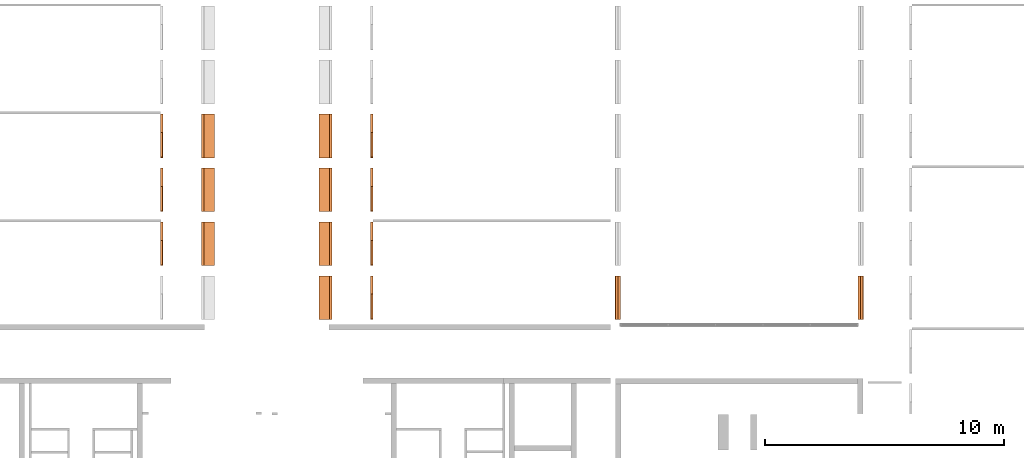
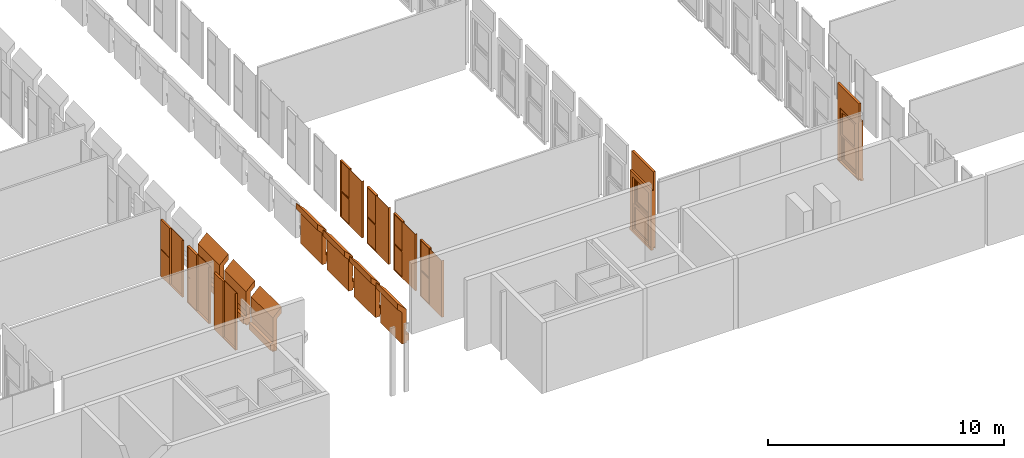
# One storey, part 8 of 13: 16 proxies.
"""IFC2X3 building model written with IfcOpenShell, lengths in millimetres."""

from ifc_helpers import new_model, entity, si_unit, converted_unit, derived_unit, direction, frame, frame_2d, origin, origin_2d_with_axis, place, context, subcontext, project, spatial, polyline, rectangle, outline, extrude, source, transform, mapped, material, material_list, type_object, type_shapes, element, save


model = new_model("IFC2X3")

# Units and contexts
model_context = context("Model", 3, precision=0.01, world=origin(), true_north=direction((6.12303176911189e-17, 1.0)))
body_context = subcontext(model_context, "Body", "Model", "MODEL_VIEW")
ifc_project = project(units=[si_unit("LENGTHUNIT", "METRE", prefix="MILLI"), si_unit("AREAUNIT", "SQUARE_METRE"), si_unit("VOLUMEUNIT", "CUBIC_METRE"), converted_unit("PLANEANGLEUNIT", "DEGREE", entity("IfcRatioMeasure", 0.0174532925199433), si_unit("PLANEANGLEUNIT", "RADIAN"), dimensions=[0, 0, 0, 0, 0, 0, 0]), si_unit("MASSUNIT", "GRAM", prefix="KILO"), derived_unit("MASSDENSITYUNIT", [(si_unit("MASSUNIT", "GRAM", prefix="KILO"), 1), (si_unit("LENGTHUNIT", "METRE"), -3)]), derived_unit("MOMENTOFINERTIAUNIT", [(si_unit("LENGTHUNIT", "METRE"), 4)]), si_unit("TIMEUNIT", "SECOND"), si_unit("FREQUENCYUNIT", "HERTZ"), si_unit("THERMODYNAMICTEMPERATUREUNIT", "DEGREE_CELSIUS"), derived_unit("THERMALTRANSMITTANCEUNIT", [(si_unit("MASSUNIT", "GRAM", prefix="KILO"), 1), (si_unit("THERMODYNAMICTEMPERATUREUNIT", "KELVIN"), -1), (si_unit("TIMEUNIT", "SECOND"), -3)]), derived_unit("VOLUMETRICFLOWRATEUNIT", [(si_unit("LENGTHUNIT", "METRE"), 3), (si_unit("TIMEUNIT", "SECOND"), -1)]), si_unit("ELECTRICCURRENTUNIT", "AMPERE"), si_unit("ELECTRICVOLTAGEUNIT", "VOLT"), si_unit("POWERUNIT", "WATT"), si_unit("FORCEUNIT", "NEWTON", prefix="KILO"), si_unit("ILLUMINANCEUNIT", "LUX"), si_unit("LUMINOUSFLUXUNIT", "LUMEN"), si_unit("LUMINOUSINTENSITYUNIT", "CANDELA"), derived_unit("USERDEFINED", [(si_unit("MASSUNIT", "GRAM", prefix="KILO"), -1), (si_unit("LENGTHUNIT", "METRE"), -2), (si_unit("TIMEUNIT", "SECOND"), 3), (si_unit("LUMINOUSFLUXUNIT", "LUMEN"), 1)]), derived_unit("LINEARVELOCITYUNIT", [(si_unit("LENGTHUNIT", "METRE"), 1), (si_unit("TIMEUNIT", "SECOND"), -1)]), si_unit("PRESSUREUNIT", "PASCAL"), derived_unit("USERDEFINED", [(si_unit("LENGTHUNIT", "METRE"), -2), (si_unit("MASSUNIT", "GRAM", prefix="KILO"), 1), (si_unit("TIMEUNIT", "SECOND"), -2)]), derived_unit("LINEARFORCEUNIT", [(si_unit("MASSUNIT", "GRAM", prefix="KILO"), 1), (si_unit("LENGTHUNIT", "METRE"), 1), (si_unit("TIMEUNIT", "SECOND"), -2), (si_unit("LENGTHUNIT", "METRE"), -1)]), derived_unit("PLANARFORCEUNIT", [(si_unit("MASSUNIT", "GRAM", prefix="KILO"), 1), (si_unit("LENGTHUNIT", "METRE"), 1), (si_unit("TIMEUNIT", "SECOND"), -2), (si_unit("LENGTHUNIT", "METRE"), -2)])], contexts=[model_context])

# Site, building, storey
site_placement = place(None, frame((10627.5135316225, 21939.0796949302, 0.0)))
site = spatial("IfcSite", under=ifc_project, at=site_placement, Name="Default", CompositionType="ELEMENT")
building_placement = place(site_placement, origin())
building = spatial("IfcBuilding", under=site, at=building_placement, CompositionType="ELEMENT")
storey_placement = place(building_placement, frame((0.0, 0.0, 7320.0)))
storey = spatial("IfcBuildingStorey", under=building, at=storey_placement, Name="R+2", CompositionType="ELEMENT", Elevation=7320.0)

# Proxies
ifc_material_1 = material(Name="PVC, Flexible")
ifc_material_2 = material(Name="Glass")
ifc_material_list_1 = material_list([ifc_material_1, ifc_material_2])
building_element_proxy_type_1 = type_object("IfcBuildingElementProxyType", Name="FENETRE.dwg:Fenetre ext 296+95", PredefinedType="NOTDEFINED", material=ifc_material_1)
shared_shape_1 = source(origin(), body_context, "Body", "SweptSolid", [
    extrude(rectangle(XDim=1829.99999999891, YDim=112.500043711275, at=origin_2d_with_axis()), frame((-10.4189092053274, 56.2500218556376, 2960.0), z_axis=(0.0, 0.0, 1.0), x_axis=(-1.0, 0.0, 0.0)), (0.0, 0.0, 1.0), 949.999999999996),
    extrude(outline(polyline([(-68.5678005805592, -14.3879872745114), (-72.4883397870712, -33.9999574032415), (-67.5853472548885, -34.9800922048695), (-63.9024543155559, -16.5569155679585), (44.3087537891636, -16.5569155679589), (54.1101018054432, 32.4730097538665), (40.6268723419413, 35.1683804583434), (40.1368049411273, 32.7168841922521), (51.168538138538, 30.5115808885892), (42.1928709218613, -14.3879872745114), (-68.5678005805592, -14.3879872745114)])), frame((-925.418909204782, 66.917049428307, -47.5499763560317), z_axis=(-1.0, 0.0, 0.0), x_axis=(0.0, 0.980598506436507, -0.196026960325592)), (0.0, 0.0, -1.0), 1829.99999999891),
    extrude(outline(polyline([(-64.667066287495, -56.2500218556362), (66.1666874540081, -56.2500218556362), (66.1666874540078, 56.2500218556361), (-67.6663086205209, 56.2500218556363), (-64.667066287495, -56.2500218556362)])), frame((-925.418909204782, -56.2500218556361, -63.833312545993), z_axis=(1.0, 0.0, 0.0), x_axis=(0.0, 0.0, -1.0)), (0.0, 0.0, 1.0), 1829.99999999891),
    extrude(outline(polyline([(-55.5555555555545, 97.0007159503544), (-55.5555555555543, -5.85738417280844), (-55.5555555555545, -95.357341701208), (-45.5555555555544, -95.3573417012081), (-45.5555555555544, -105.357341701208), (174.444444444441, -105.357341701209), (174.444444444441, 106.642659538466), (-45.5555555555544, 106.642659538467), (-45.5555555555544, 97.0007159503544), (-55.5555555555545, 97.0007159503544)])), frame((849.025535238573, 5.85738417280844, 0.0), z_axis=(0.0, 0.0, -1.0), x_axis=(-1.0, 0.0, 0.0)), (0.0, 0.0, -1.0), 2960.0),
    extrude(rectangle(XDim=199.499957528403, YDim=1369.99999999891, at=origin_2d_with_axis()), frame((-10.4189092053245, 0.250021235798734, 2730.0), z_axis=(0.0, 0.0, 1.0), x_axis=(0.0, 1.0, 0.0)), (0.0, 0.0, 1.0), 230.000000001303),
    extrude(outline(polyline([(-97.0007159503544, -55.5555555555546), (5.85738417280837, -55.5555555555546), (95.357341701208, -55.5555555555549), (95.357341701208, -45.5555555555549), (105.357341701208, -45.5555555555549), (105.357341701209, 174.44444444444), (-106.642659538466, 174.444444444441), (-106.642659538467, -45.5555555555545), (-97.0007159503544, -45.5555555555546), (-97.0007159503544, -55.5555555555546)])), frame((-869.863353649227, 5.85738417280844, 0.0), z_axis=(0.0, 0.0, 1.0), x_axis=(0.0, -1.0, 0.0)), (0.0, 0.0, 1.0), 2960.0),
    extrude(rectangle(XDim=1.0, YDim=1079.99999999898, at=origin_2d_with_axis()), frame((-10.4189092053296, -19.5, 130.0), z_axis=(0.0, 0.0, 1.0), x_axis=(0.0, 1.0, 0.0)), (0.0, 0.0, 1.0), 1120.00000000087),
    extrude(rectangle(XDim=1.0, YDim=1079.99999999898, at=frame_2d((-4.21884749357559e-15, 0.0), x_axis=(1.0, 0.0))), frame((-10.4189092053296, -30.5, 130.0), z_axis=(0.0, 0.0, 1.0), x_axis=(0.0, 1.0, 0.0)), (0.0, 0.0, 1.0), 1120.00000000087),
    extrude(rectangle(XDim=1.0, YDim=1079.99999999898, at=frame_2d((-4.21884749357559e-15, 0.0), x_axis=(1.0, 0.0))), frame((-10.4189092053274, 69.5, 1465.0), z_axis=(0.0, 0.0, 1.0), x_axis=(0.0, 1.0, 0.0)), (0.0, 0.0, 1.0), 1120.0),
    extrude(rectangle(XDim=0.999999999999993, YDim=1079.99999999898, at=frame_2d((-8.46545056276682e-15, 0.0), x_axis=(1.0, 0.0))), frame((-10.4189092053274, 80.5, 1465.0), z_axis=(0.0, 0.0, 1.0), x_axis=(0.0, 1.0, 0.0)), (0.0, 0.0, 1.0), 1120.00000000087),
    extrude(outline(polyline([(-685.0, -1365.0), (0.0, -1365.0), (685.0, -1365.0), (685.0, 1365.0), (0.0, 1365.0), (-685.0, 1365.0), (-685.0, -1365.0)]), holes=[polyline([(-640.0, -1320.0), (-640.0, -45.0), (0.0, -45.0), (640.0, -45.0), (640.0, -1320.0), (0.0, -1320.0), (-640.0, -1320.0)]), polyline([(-640.0, 40.0), (-640.0, 1315.0), (0.0, 1315.0), (640.0, 1315.0), (640.0, 40.0), (0.0, 40.0), (-640.0, 40.0)])]), frame((-10.4189092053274, 0.0, 1365.0), z_axis=(0.0, 1.0, 0.0), x_axis=(1.0, 0.0, 0.0)), (0.0, 0.0, 1.0), 50.0),
    extrude(outline(polyline([(-655.0, -667.500000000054), (655.0, -667.500000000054), (655.0, 667.500000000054), (-655.0, 667.500000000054), (-655.0, -667.500000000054)]), holes=[polyline([(-540.0, 552.500000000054), (540.0, 552.500000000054), (540.0, -567.500000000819), (-540.0, -567.500000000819), (-540.0, 552.500000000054)])]), frame((-10.4189092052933, -50.0, 697.500000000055), z_axis=(0.0, 1.0, 0.0), x_axis=(-1.0, 0.0, 0.0)), (0.0, 0.0, 1.0), 50.0),
    extrude(outline(polyline([(-655.0, -667.500000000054), (655.0, -667.500000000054), (655.0, 667.500000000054), (-655.0, 667.500000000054), (-655.0, -667.500000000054)]), holes=[polyline([(-540.0, 552.500000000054), (540.0, 552.500000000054), (540.0, -567.500000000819), (-540.0, -567.500000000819), (-540.0, 552.500000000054)])]), frame((-10.4189092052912, 50.0, 2032.50000000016), z_axis=(0.0, 1.0, 0.0), x_axis=(-1.0, 0.0, 0.0)), (0.0, 0.0, 1.0), 50.0),
])
type_shapes(building_element_proxy_type_1, [shared_shape_1])
proxy_1_placement = place(storey_placement, frame((51473.0982174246, -14018.6607857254, 0.0), z_axis=(0.0, 0.0, 1.0), x_axis=(0.0, 1.0, 0.0)))
element("IfcBuildingElementProxy", 1, at=proxy_1_placement, inside=storey, type_object=building_element_proxy_type_1, material=ifc_material_list_1, Name="FENETRE.dwg:Fenetre ext 296+95", ObjectType="FENETRE.dwg:Fenetre ext 296+95", context=body_context, shape_type="MappedRepresentation", body=[
    mapped(shared_shape_1, transform((0.0, 0.0, 0.0), scale=1.0)),
])
ifc_material_list_2 = material_list([ifc_material_1, ifc_material_2])
building_element_proxy_type_2 = type_object("IfcBuildingElementProxyType", Name="FENETRE.dwg:Fenetre ext 296+95", PredefinedType="NOTDEFINED", material=ifc_material_1)
shared_shape_2 = source(origin(), body_context, "Body", "SweptSolid", [
    extrude(rectangle(XDim=112.500043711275, YDim=1829.99999999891, at=origin_2d_with_axis()), frame((-10.4189092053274, -56.2500218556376, 2960.0), z_axis=(0.0, 0.0, 1.0), x_axis=(0.0, 1.0, 0.0)), (0.0, 0.0, 1.0), 949.999999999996),
    extrude(outline(polyline([(27.5499763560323, -64.4170494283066), (47.5499763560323, -64.4170494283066), (47.5499763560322, -59.4170494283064), (28.7622905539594, -59.4170494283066), (7.54997635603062, 46.6946996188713), (-42.4500236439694, 46.6946996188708), (-42.4500236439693, 32.9446996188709), (-39.9500236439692, 32.9446996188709), (-39.9500236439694, 44.1946996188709), (5.83789859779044, 44.1946996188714), (27.5499763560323, -64.4170494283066)])), frame((-925.418909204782, -66.917049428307, -47.5499763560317), z_axis=(1.0, 0.0, 0.0), x_axis=(0.0, 0.0, 1.0)), (0.0, 0.0, 1.0), 1829.99999999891),
    extrude(outline(polyline([(-54.506636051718, -66.1431859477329), (58.0333803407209, -66.1431859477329), (54.4666704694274, 67.6422744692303), (-57.9934147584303, 64.6440974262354), (-54.506636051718, -66.1431859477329)])), frame((-925.418909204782, 56.2500218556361, -63.833312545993), z_axis=(1.0, 0.0, 0.0), x_axis=(0.0, -0.999644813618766, 0.0266504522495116)), (0.0, 0.0, 1.0), 1829.99999999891),
    extrude(outline(polyline([(-97.0007159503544, -55.5555555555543), (5.85738417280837, -55.5555555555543), (95.357341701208, -55.5555555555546), (95.357341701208, -45.5555555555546), (105.357341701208, -45.5555555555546), (105.357341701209, 174.444444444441), (-106.642659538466, 174.444444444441), (-106.642659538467, -45.5555555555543), (-97.0007159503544, -45.5555555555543), (-97.0007159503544, -55.5555555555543)])), frame((849.025535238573, -5.85738417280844, 0.0), z_axis=(0.0, 0.0, 1.0), x_axis=(0.0, 1.0, 0.0)), (0.0, 0.0, 1.0), 2960.0),
    extrude(rectangle(XDim=1369.99999999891, YDim=199.499957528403, at=origin_2d_with_axis()), frame((-10.4189092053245, -0.250021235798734, 2730.0), z_axis=(0.0, 0.0, 1.0), x_axis=(-1.0, 0.0, 0.0)), (0.0, 0.0, 1.0), 230.000000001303),
    extrude(outline(polyline([(-55.5555555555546, 97.0007159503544), (-55.5555555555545, -5.85738417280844), (-55.5555555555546, -95.357341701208), (-45.5555555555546, -95.3573417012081), (-45.5555555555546, -105.357341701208), (174.444444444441, -105.357341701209), (174.444444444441, 106.642659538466), (-45.5555555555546, 106.642659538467), (-45.5555555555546, 97.0007159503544), (-55.5555555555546, 97.0007159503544)])), frame((-869.863353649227, -5.85738417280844, 0.0), z_axis=(0.0, 0.0, -1.0), x_axis=(1.0, 0.0, 0.0)), (0.0, 0.0, -1.0), 2960.0),
    extrude(rectangle(XDim=1079.99999999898, YDim=1.0, at=origin_2d_with_axis()), frame((-10.4189092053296, 19.5, 130.0), z_axis=(0.0, 0.0, 1.0), x_axis=(-1.0, 0.0, 0.0)), (0.0, 0.0, 1.0), 1120.00000000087),
    extrude(rectangle(XDim=1079.99999999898, YDim=1.0, at=origin_2d_with_axis()), frame((-10.4189092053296, 30.5, 130.0), z_axis=(0.0, 0.0, 1.0), x_axis=(-1.0, 0.0, 0.0)), (0.0, 0.0, 1.0), 1120.00000000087),
    extrude(rectangle(XDim=1079.99999999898, YDim=1.0, at=frame_2d((0.0, 4.21884749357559e-15), x_axis=(1.0, 0.0))), frame((-10.4189092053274, -69.5, 1465.0), z_axis=(0.0, 0.0, 1.0), x_axis=(-1.0, 0.0, 0.0)), (0.0, 0.0, 1.0), 1120.0),
    extrude(rectangle(XDim=1079.99999999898, YDim=0.999999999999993, at=frame_2d((0.0, -8.46545056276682e-15), x_axis=(1.0, 0.0))), frame((-10.4189092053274, -80.5, 1465.0), z_axis=(0.0, 0.0, 1.0), x_axis=(-1.0, 0.0, 0.0)), (0.0, 0.0, 1.0), 1120.00000000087),
    extrude(outline(polyline([(-685.0, -1365.0), (0.0, -1365.0), (685.0, -1365.0), (685.0, 1365.0), (0.0, 1365.0), (-685.0, 1365.0), (-685.0, -1365.0)]), holes=[polyline([(-640.0, -1320.0), (-640.0, -45.0), (0.0, -45.0), (640.0, -45.0), (640.0, -1320.0), (0.0, -1320.0), (-640.0, -1320.0)]), polyline([(-640.0, 40.0), (-640.0, 1315.0), (0.0, 1315.0), (640.0, 1315.0), (640.0, 40.0), (0.0, 40.0), (-640.0, 40.0)])]), frame((-10.4189092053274, -50.0, 1365.0), z_axis=(0.0, 1.0, 0.0), x_axis=(1.0, 0.0, 0.0)), (0.0, 0.0, 1.0), 50.0),
    extrude(outline(polyline([(-655.0, -667.500000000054), (655.0, -667.500000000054), (655.0, 667.500000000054), (-655.0, 667.500000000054), (-655.0, -667.500000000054)]), holes=[polyline([(-540.0, 552.500000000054), (540.0, 552.500000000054), (540.0, -567.500000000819), (-540.0, -567.500000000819), (-540.0, 552.500000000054)])]), frame((-10.4189092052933, 0.0, 697.500000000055), z_axis=(0.0, 1.0, 0.0), x_axis=(-1.0, 0.0, 0.0)), (0.0, 0.0, 1.0), 50.0),
    extrude(outline(polyline([(-655.0, -667.500000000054), (655.0, -667.500000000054), (655.0, 667.500000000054), (-655.0, 667.500000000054), (-655.0, -667.500000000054)]), holes=[polyline([(-540.0, 552.500000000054), (540.0, 552.500000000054), (540.0, -567.500000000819), (-540.0, -567.500000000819), (-540.0, 552.500000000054)])]), frame((-10.4189092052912, -100.0, 2032.50000000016), z_axis=(0.0, 1.0, 0.0), x_axis=(-1.0, 0.0, 0.0)), (0.0, 0.0, 1.0), 50.0),
])
type_shapes(building_element_proxy_type_2, [shared_shape_2])
proxy_2_placement = place(storey_placement, frame((41291.8747193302, -14018.6607857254, 0.0), z_axis=(0.0, 0.0, 1.0), x_axis=(0.0, 1.0, 0.0)))
element("IfcBuildingElementProxy", 2, at=proxy_2_placement, inside=storey, type_object=building_element_proxy_type_2, material=ifc_material_list_2, Name="FENETRE.dwg:Fenetre ext 296+95", ObjectType="FENETRE.dwg:Fenetre ext 296+95", context=body_context, shape_type="MappedRepresentation", body=[
    mapped(shared_shape_2, transform((0.0, 0.0, 0.0), scale=1.0)),
])
ifc_material_3 = material(Name="Plywood, Sheathing")
ifc_material_list_3 = material_list([ifc_material_3, ifc_material_2])
building_element_proxy_type_3 = type_object("IfcBuildingElementProxyType", Name="Porte noire:Porte noire", PredefinedType="NOTDEFINED", material=ifc_material_3)
shared_shape_3 = source(origin(), body_context, "Body", "SweptSolid", [
    extrude(rectangle(XDim=100.0, YDim=23.0000000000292, at=origin_2d_with_axis()), frame((-950.918997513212, -50.0, 8.73189890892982), z_axis=(0.0, 0.0, 1.0), x_axis=(0.0, 1.0, 0.0)), (0.0, 0.0, 1.0), 2933.34951039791),
    extrude(rectangle(XDim=19.0, YDim=1038.0, at=frame_2d((7.99360577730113e-15, 0.0), x_axis=(1.0, 0.0))), frame((-420.418997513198, -87.5, 43.7318989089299), z_axis=(0.0, 0.0, 1.0), x_axis=(0.0, 1.0, 0.0)), (0.0, 0.0, 1.0), 2898.5),
    extrude(rectangle(XDim=100.0, YDim=1775.0, at=origin_2d_with_axis()), frame((-51.9189975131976, -50.0, 8.73189890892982), z_axis=(0.0, 0.0, 1.0), x_axis=(0.0, 1.0, 0.0)), (0.0, 0.0, 1.0), 35.0000000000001),
    extrude(rectangle(XDim=100.0, YDim=35.0000000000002, at=origin_2d_with_axis()), frame((853.081002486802, -50.0, 8.73189890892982), z_axis=(0.0, 0.0, 1.0), x_axis=(0.0, 1.0, 0.0)), (0.0, 0.0, 1.0), 2898.5),
    extrude(rectangle(XDim=100.0, YDim=740.0, at=origin_2d_with_axis()), frame((500.581002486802, -50.0, 2907.23189890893), z_axis=(0.0, 0.0, 1.0), x_axis=(0.0, 1.0, 0.0)), (0.0, 0.0, 1.0), 35.0000000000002),
    extrude(rectangle(XDim=100.0, YDim=31.9999999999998, at=origin_2d_with_axis()), frame((114.581002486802, -50.0, 43.7318989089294), z_axis=(0.0, 0.0, 1.0), x_axis=(0.0, 1.0, 0.0)), (0.0, 0.0, 1.0), 2898.5),
    extrude(rectangle(XDim=100.0, YDim=705.0, at=origin_2d_with_axis()), frame((483.081002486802, -50.0, 1343.73189890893), z_axis=(0.0, 0.0, 1.0), x_axis=(0.0, 1.0, 0.0)), (0.0, 0.0, 1.0), 55.0),
    extrude(outline(polyline([(-352.5, -650.0), (352.5, -650.0), (352.5, 650.0), (-352.5, 650.0), (-352.5, -650.0)]), holes=[polyline([(342.5, 640.0), (342.5, -640.0), (-342.5, -640.0), (-342.5, 640.0), (342.5, 640.0)])]), frame((483.081002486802, -80.0, 693.73189890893), z_axis=(0.0, 1.0, 0.0), x_axis=(1.0, 0.0, 0.0)), (0.0, 0.0, 1.0), 70.0),
    extrude(outline(polyline([(-754.25, -352.5), (754.25, -352.5), (754.25, 352.5), (-754.25, 352.5), (-754.25, -352.5)]), holes=[polyline([(744.25, 342.5), (744.25, -342.5), (-744.25, -342.5), (-744.25, 342.5), (744.25, 342.5)])]), frame((483.081002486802, -80.0, 2152.98189890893), z_axis=(0.0, 1.0, 0.0), x_axis=(0.0, 0.0, 1.0)), (0.0, 0.0, 1.0), 70.0),
    extrude(outline(polyline([(-640.0, -342.5), (640.0, -342.5), (640.0, 342.5), (-640.0, 342.5), (-640.0, -342.5)]), holes=[polyline([(630.0, 332.5), (630.0, -332.5), (-630.0, -332.5), (-630.0, 332.5), (630.0, 332.5)])]), frame((483.081002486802, -81.0, 693.731898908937), z_axis=(0.0, 1.0, 0.0), x_axis=(0.0, 0.0, 1.0)), (0.0, 0.0, 1.0), 3.99999999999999),
    extrude(outline(polyline([(-744.25, -342.5), (744.25, -342.5), (744.25, 342.5), (-744.25, 342.5), (-744.25, -342.5)]), holes=[polyline([(734.25, 332.5), (734.25, -332.5), (-734.25, -332.5), (-734.25, 332.5), (734.25, 332.5)])]), frame((483.081002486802, -81.0, 2152.98189890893), z_axis=(0.0, 1.0, 0.0), x_axis=(0.0, 0.0, 1.0)), (0.0, 0.0, 1.0), 3.99999999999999),
    extrude(outline(polyline([(-640.0, -342.5), (640.0, -342.5), (640.0, 342.5), (-640.0, 342.5), (-640.0, -342.5)]), holes=[polyline([(630.0, 332.5), (630.0, -332.5), (-630.0, -332.5), (-630.0, 332.5), (630.0, 332.5)])]), frame((483.081002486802, -15.0, 693.782575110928), z_axis=(0.0, 1.0, 0.0), x_axis=(0.0, 0.0, 1.0)), (0.0, 0.0, 1.0), 5.0),
    extrude(outline(polyline([(-744.25, -342.5), (744.25, -342.5), (744.25, 342.5), (-744.25, 342.5), (-744.25, -342.5)]), holes=[polyline([(734.25, 332.5), (734.25, -332.5), (-734.25, -332.5), (-734.25, 332.5), (734.25, 332.5)])]), frame((483.081002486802, -15.0, 2153.03257511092), z_axis=(0.0, 1.0, 0.0), x_axis=(0.0, 0.0, 1.0)), (0.0, 0.0, 1.0), 5.0),
    extrude(rectangle(XDim=2.0, YDim=665.0, at=frame_2d((8.43769498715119e-15, 0.0), x_axis=(1.0, 0.0))), frame((483.081002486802, -79.0, 1418.73189890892), z_axis=(0.0, 0.0, 1.0), x_axis=(0.0, 1.0, 0.0)), (0.0, 0.0, 1.0), 1468.50000000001),
    extrude(rectangle(XDim=2.0, YDim=665.0, at=frame_2d((8.43769498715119e-15, 0.0), x_axis=(1.0, 0.0))), frame((483.081002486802, -79.0, 63.7318989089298), z_axis=(0.0, 0.0, 1.0), x_axis=(0.0, 1.0, 0.0)), (0.0, 0.0, 1.0), 1260.0),
    extrude(rectangle(XDim=2.0, YDim=665.0, at=frame_2d((1.0547118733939e-15, 0.0), x_axis=(1.0, 0.0))), frame((483.081002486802, -13.0, 1418.78257511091), z_axis=(0.0, 0.0, 1.0), x_axis=(0.0, 1.0, 0.0)), (0.0, 0.0, 1.0), 1468.50000000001),
    extrude(rectangle(XDim=2.0, YDim=665.0, at=frame_2d((1.0547118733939e-15, 0.0), x_axis=(1.0, 0.0))), frame((483.081002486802, -13.0, 63.7825751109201), z_axis=(0.0, 0.0, 1.0), x_axis=(0.0, 1.0, 0.0)), (0.0, 0.0, 1.0), 1260.0),
])
type_shapes(building_element_proxy_type_3, [shared_shape_3])
proxy_3_placement = place(storey_placement, frame((22127.8464640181, -11722.6606974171, 0.0), z_axis=(0.0, 0.0, 1.0), x_axis=(0.0, 1.0, 0.0)))
element("IfcBuildingElementProxy", 3, at=proxy_3_placement, inside=storey, type_object=building_element_proxy_type_3, material=ifc_material_list_3, Name="Porte noire:Porte noire", ObjectType="Porte noire:Porte noire", context=body_context, shape_type="MappedRepresentation", body=[
    mapped(shared_shape_3, transform((0.0, 0.0, 0.0), scale=1.0)),
])
ifc_material_list_4 = material_list([ifc_material_3, ifc_material_2])
proxy_4_placement = place(storey_placement, frame((22127.8464640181, -9462.66069741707, 0.0), z_axis=(0.0, 0.0, 1.0), x_axis=(0.0, 1.0, 0.0)))
element("IfcBuildingElementProxy", 4, at=proxy_4_placement, inside=storey, type_object=building_element_proxy_type_3, material=ifc_material_list_4, Name="Porte noire:Porte noire", ObjectType="Porte noire:Porte noire", context=body_context, shape_type="MappedRepresentation", body=[
    mapped(shared_shape_3, transform((0.0, 0.0, 0.0), scale=1.0)),
])
ifc_material_list_5 = material_list([ifc_material_3, ifc_material_2])
proxy_5_placement = place(storey_placement, frame((22127.8464640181, -7202.66069741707, 0.0), z_axis=(0.0, 0.0, 1.0), x_axis=(0.0, 1.0, 0.0)))
element("IfcBuildingElementProxy", 5, at=proxy_5_placement, inside=storey, type_object=building_element_proxy_type_3, material=ifc_material_list_5, Name="Porte noire:Porte noire", ObjectType="Porte noire:Porte noire", context=body_context, shape_type="MappedRepresentation", body=[
    mapped(shared_shape_3, transform((0.0, 0.0, 0.0), scale=1.0)),
])
ifc_material_list_6 = material_list([ifc_material_3, ifc_material_2])
building_element_proxy_type_4 = type_object("IfcBuildingElementProxyType", Name="Porte noire:Porte noire", PredefinedType="NOTDEFINED", material=ifc_material_3)
shared_shape_4 = source(origin(), body_context, "Body", "SweptSolid", [
    extrude(rectangle(XDim=23.0000000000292, YDim=100.0, at=frame_2d((-1.35891298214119e-13, 0.0), x_axis=(1.0, 0.0))), frame((-950.918997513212, 50.0, 8.73189890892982), z_axis=(0.0, 0.0, 1.0), x_axis=(-1.0, 0.0, 0.0)), (0.0, 0.0, 1.0), 2933.34951039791),
    extrude(rectangle(XDim=1038.0, YDim=19.0, at=frame_2d((0.0, 7.99360577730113e-15), x_axis=(1.0, 0.0))), frame((-420.418997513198, 87.5, 43.7318989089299), z_axis=(0.0, 0.0, 1.0), x_axis=(-1.0, 0.0, 0.0)), (0.0, 0.0, 1.0), 2898.5),
    extrude(rectangle(XDim=1775.0, YDim=100.0, at=origin_2d_with_axis()), frame((-51.9189975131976, 50.0, 8.73189890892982), z_axis=(0.0, 0.0, 1.0), x_axis=(-1.0, 0.0, 0.0)), (0.0, 0.0, 1.0), 35.0000000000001),
    extrude(rectangle(XDim=35.0000000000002, YDim=100.0, at=origin_2d_with_axis()), frame((853.081002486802, 50.0, 8.73189890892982), z_axis=(0.0, 0.0, 1.0), x_axis=(-1.0, 0.0, 0.0)), (0.0, 0.0, 1.0), 2898.5),
    extrude(rectangle(XDim=740.0, YDim=100.0, at=origin_2d_with_axis()), frame((500.581002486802, 50.0, 2907.23189890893), z_axis=(0.0, 0.0, 1.0), x_axis=(-1.0, 0.0, 0.0)), (0.0, 0.0, 1.0), 35.0000000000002),
    extrude(rectangle(XDim=31.9999999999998, YDim=100.0, at=origin_2d_with_axis()), frame((114.581002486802, 50.0, 43.7318989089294), z_axis=(0.0, 0.0, 1.0), x_axis=(-1.0, 0.0, 0.0)), (0.0, 0.0, 1.0), 2898.5),
    extrude(rectangle(XDim=705.0, YDim=100.0, at=origin_2d_with_axis()), frame((483.081002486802, 50.0, 1343.73189890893), z_axis=(0.0, 0.0, 1.0), x_axis=(-1.0, 0.0, 0.0)), (0.0, 0.0, 1.0), 55.0),
    extrude(outline(polyline([(-352.5, -650.0), (352.5, -650.0), (352.5, 650.0), (-352.5, 650.0), (-352.5, -650.0)]), holes=[polyline([(342.5, 640.0), (342.5, -640.0), (-342.5, -640.0), (-342.5, 640.0), (342.5, 640.0)])]), frame((483.081002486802, 10.0, 693.73189890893), z_axis=(0.0, 1.0, 0.0), x_axis=(1.0, 0.0, 0.0)), (0.0, 0.0, 1.0), 70.0),
    extrude(outline(polyline([(-754.25, -352.5), (754.25, -352.5), (754.25, 352.5), (-754.25, 352.5), (-754.25, -352.5)]), holes=[polyline([(744.25, 342.5), (744.25, -342.5), (-744.25, -342.5), (-744.25, 342.5), (744.25, 342.5)])]), frame((483.081002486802, 10.0, 2152.98189890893), z_axis=(0.0, 1.0, 0.0), x_axis=(0.0, 0.0, 1.0)), (0.0, 0.0, 1.0), 70.0),
    extrude(outline(polyline([(-640.0, -342.5), (640.0, -342.5), (640.0, 342.5), (-640.0, 342.5), (-640.0, -342.5)]), holes=[polyline([(630.0, 332.5), (630.0, -332.5), (-630.0, -332.5), (-630.0, 332.5), (630.0, 332.5)])]), frame((483.081002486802, 77.0, 693.731898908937), z_axis=(0.0, 1.0, 0.0), x_axis=(0.0, 0.0, 1.0)), (0.0, 0.0, 1.0), 3.99999999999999),
    extrude(outline(polyline([(-744.25, -342.5), (744.25, -342.5), (744.25, 342.5), (-744.25, 342.5), (-744.25, -342.5)]), holes=[polyline([(734.25, 332.5), (734.25, -332.5), (-734.25, -332.5), (-734.25, 332.5), (734.25, 332.5)])]), frame((483.081002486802, 77.0, 2152.98189890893), z_axis=(0.0, 1.0, 0.0), x_axis=(0.0, 0.0, 1.0)), (0.0, 0.0, 1.0), 3.99999999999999),
    extrude(outline(polyline([(-640.0, -342.5), (640.0, -342.5), (640.0, 342.5), (-640.0, 342.5), (-640.0, -342.5)]), holes=[polyline([(630.0, 332.5), (630.0, -332.5), (-630.0, -332.5), (-630.0, 332.5), (630.0, 332.5)])]), frame((483.081002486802, 10.0, 693.782575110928), z_axis=(0.0, 1.0, 0.0), x_axis=(0.0, 0.0, 1.0)), (0.0, 0.0, 1.0), 5.0),
    extrude(outline(polyline([(-744.25, -342.5), (744.25, -342.5), (744.25, 342.5), (-744.25, 342.5), (-744.25, -342.5)]), holes=[polyline([(734.25, 332.5), (734.25, -332.5), (-734.25, -332.5), (-734.25, 332.5), (734.25, 332.5)])]), frame((483.081002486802, 10.0, 2153.03257511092), z_axis=(0.0, 1.0, 0.0), x_axis=(0.0, 0.0, 1.0)), (0.0, 0.0, 1.0), 5.0),
    extrude(rectangle(XDim=665.0, YDim=2.0, at=frame_2d((0.0, 8.43769498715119e-15), x_axis=(1.0, 0.0))), frame((483.081002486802, 79.0, 1418.73189890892), z_axis=(0.0, 0.0, 1.0), x_axis=(-1.0, 0.0, 0.0)), (0.0, 0.0, 1.0), 1468.50000000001),
    extrude(rectangle(XDim=665.0, YDim=2.0, at=frame_2d((0.0, 8.43769498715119e-15), x_axis=(1.0, 0.0))), frame((483.081002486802, 79.0, 63.7318989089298), z_axis=(0.0, 0.0, 1.0), x_axis=(-1.0, 0.0, 0.0)), (0.0, 0.0, 1.0), 1260.0),
    extrude(rectangle(XDim=665.0, YDim=2.0, at=frame_2d((0.0, 1.0547118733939e-15), x_axis=(1.0, 0.0))), frame((483.081002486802, 13.0, 1418.78257511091), z_axis=(0.0, 0.0, 1.0), x_axis=(-1.0, 0.0, 0.0)), (0.0, 0.0, 1.0), 1468.50000000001),
    extrude(rectangle(XDim=665.0, YDim=2.0, at=frame_2d((0.0, 1.0547118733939e-15), x_axis=(1.0, 0.0))), frame((483.081002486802, 13.0, 63.7825751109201), z_axis=(0.0, 0.0, 1.0), x_axis=(-1.0, 0.0, 0.0)), (0.0, 0.0, 1.0), 1260.0),
])
type_shapes(building_element_proxy_type_4, [shared_shape_4])
proxy_6_placement = place(storey_placement, frame((31027.1264727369, -13982.6606974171, 0.0), z_axis=(0.0, 0.0, 1.0), x_axis=(0.0, 1.0, 0.0)))
element("IfcBuildingElementProxy", 6, at=proxy_6_placement, inside=storey, type_object=building_element_proxy_type_4, material=ifc_material_list_6, Name="Porte noire:Porte noire", ObjectType="Porte noire:Porte noire", context=body_context, shape_type="MappedRepresentation", body=[
    mapped(shared_shape_4, transform((0.0, 0.0, 0.0), scale=1.0)),
])
ifc_material_list_7 = material_list([ifc_material_3, ifc_material_2])
proxy_7_placement = place(storey_placement, frame((31027.1264727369, -11722.6606974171, 0.0), z_axis=(0.0, 0.0, 1.0), x_axis=(0.0, 1.0, 0.0)))
element("IfcBuildingElementProxy", 7, at=proxy_7_placement, inside=storey, type_object=building_element_proxy_type_4, material=ifc_material_list_7, Name="Porte noire:Porte noire", ObjectType="Porte noire:Porte noire", context=body_context, shape_type="MappedRepresentation", body=[
    mapped(shared_shape_4, transform((0.0, 0.0, 0.0), scale=1.0)),
])
ifc_material_list_8 = material_list([ifc_material_3, ifc_material_2])
proxy_8_placement = place(storey_placement, frame((31027.1264727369, -9462.66069741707, 0.0), z_axis=(0.0, 0.0, 1.0), x_axis=(0.0, 1.0, 0.0)))
element("IfcBuildingElementProxy", 8, at=proxy_8_placement, inside=storey, type_object=building_element_proxy_type_4, material=ifc_material_list_8, Name="Porte noire:Porte noire", ObjectType="Porte noire:Porte noire", context=body_context, shape_type="MappedRepresentation", body=[
    mapped(shared_shape_4, transform((0.0, 0.0, 0.0), scale=1.0)),
])
ifc_material_list_9 = material_list([ifc_material_3, ifc_material_2])
proxy_9_placement = place(storey_placement, frame((31027.1264727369, -7202.66069741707, 0.0), z_axis=(0.0, 0.0, 1.0), x_axis=(0.0, 1.0, 0.0)))
element("IfcBuildingElementProxy", 9, at=proxy_9_placement, inside=storey, type_object=building_element_proxy_type_4, material=ifc_material_list_9, Name="Porte noire:Porte noire", ObjectType="Porte noire:Porte noire", context=body_context, shape_type="MappedRepresentation", body=[
    mapped(shared_shape_4, transform((0.0, 0.0, 0.0), scale=1.0)),
])
ifc_material_4 = material(Name="Concrete, Precast Smooth, Light Grey")
building_element_proxy_type_5 = type_object("IfcBuildingElementProxyType", Name="Panneaux mediateque:Panneaux mediateque", PredefinedType="NOTDEFINED", material=ifc_material_4)
shared_shape_5 = source(origin(), body_context, "Body", "SweptSolid", [
    extrude(outline(polyline([(-998.434688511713, -508.899393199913), (-1213.39514999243, -723.859854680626), (-605.283318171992, -723.859854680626), (115.965598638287, -2.61093787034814), (101.823463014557, 11.5311977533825), (296.277827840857, 205.985562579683), (310.419963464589, 191.843426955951), (395.272229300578, 106.991161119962), (639.224068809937, 350.943000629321), (554.371802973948, 435.79526646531), (625.082466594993, 506.505930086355), (473.054508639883, 658.533888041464), (-694.378772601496, -508.899393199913), (-998.434688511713, -508.899393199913)])), frame((0.0, -203.845498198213, 800.153828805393), z_axis=(-1.0, 0.0, 0.0), x_axis=(0.0, 0.707106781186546, -0.707106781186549)), (0.0, 0.0, -1.0), 1830.0),
])
type_shapes(building_element_proxy_type_5, [shared_shape_5])
for number, where, z_axis, x_axis, name in (
    (10, (23837.4872432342, -8164.07969493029, -700.0), (0.0, 0.0, 1.0), (0.0, 1.0, 0.0), "Panneaux mediateque:Panneaux mediateque"),
    (11, (23837.4872432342, -10424.0796949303, -700.0), (0.0, 0.0, 1.0), (0.0, 1.0, 0.0), "Panneaux mediateque:Panneaux mediateque"),
    (12, (23837.4872432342, -12684.0796949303, -700.0), (0.0, 0.0, 1.0), (0.0, 1.0, 0.0), "Panneaux mediateque:Panneaux mediateque"),
):
    element("IfcBuildingElementProxy", number, at=place(storey_placement, frame(where, z_axis=z_axis, x_axis=x_axis)), inside=storey, type_object=building_element_proxy_type_5, material=ifc_material_4, Name=name, ObjectType="Panneaux mediateque:Panneaux mediateque", context=body_context, shape_type="MappedRepresentation", body=[
        mapped(shared_shape_5, transform((0.0, 0.0, 0.0), scale=1.0)),
    ])
building_element_proxy_type_6 = type_object("IfcBuildingElementProxyType", Name="Panneaux mediateque:Panneaux mediateque", PredefinedType="NOTDEFINED", material=ifc_material_4)
shared_shape_6 = source(origin(), body_context, "Body", "SweptSolid", [
    extrude(outline(polyline([(1065.84615069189, -346.153726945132), (1369.84615069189, -346.153726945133), (939.84615069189, 83.8462730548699), (-80.1538493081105, 83.8462730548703), (-80.1538493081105, 63.8462730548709), (-355.15384930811, 63.8462730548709), (-355.15384930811, 83.8462730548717), (-355.15384930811, 203.845498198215), (-700.153849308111, 203.845498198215), (-700.153849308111, 83.8462730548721), (-800.153828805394, 83.8462730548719), (-800.153828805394, -131.153726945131), (850.846150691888, -131.153726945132), (1065.84615069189, -346.153726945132)])), frame((0.0, 203.845498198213, 800.153828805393), z_axis=(1.0, 0.0, 0.0), x_axis=(0.0, 0.0, 1.0)), (0.0, 0.0, 1.0), 1830.0),
])
type_shapes(building_element_proxy_type_6, [shared_shape_6])
for number, where, z_axis, x_axis, name in (
    (13, (29317.4856935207, -8164.07969493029, -700.0), (0.0, 0.0, 1.0), (0.0, 1.0, 0.0), "Panneaux mediateque:Panneaux mediateque"),
    (14, (29317.4856935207, -10424.0796949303, -700.0), (0.0, 0.0, 1.0), (0.0, 1.0, 0.0), "Panneaux mediateque:Panneaux mediateque"),
    (15, (29317.4856935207, -12684.0796949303, -700.0), (0.0, 0.0, 1.0), (0.0, 1.0, 0.0), "Panneaux mediateque:Panneaux mediateque"),
    (16, (29317.4856935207, -14944.0796949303, -700.0), (0.0, 0.0, 1.0), (0.0, 1.0, 0.0), "Panneaux mediateque:Panneaux mediateque"),
):
    element("IfcBuildingElementProxy", number, at=place(storey_placement, frame(where, z_axis=z_axis, x_axis=x_axis)), inside=storey, type_object=building_element_proxy_type_6, material=ifc_material_4, Name=name, ObjectType="Panneaux mediateque:Panneaux mediateque", context=body_context, shape_type="MappedRepresentation", body=[
        mapped(shared_shape_6, transform((0.0, 0.0, 0.0), scale=1.0)),
    ])

save(model, "model.ifc")
